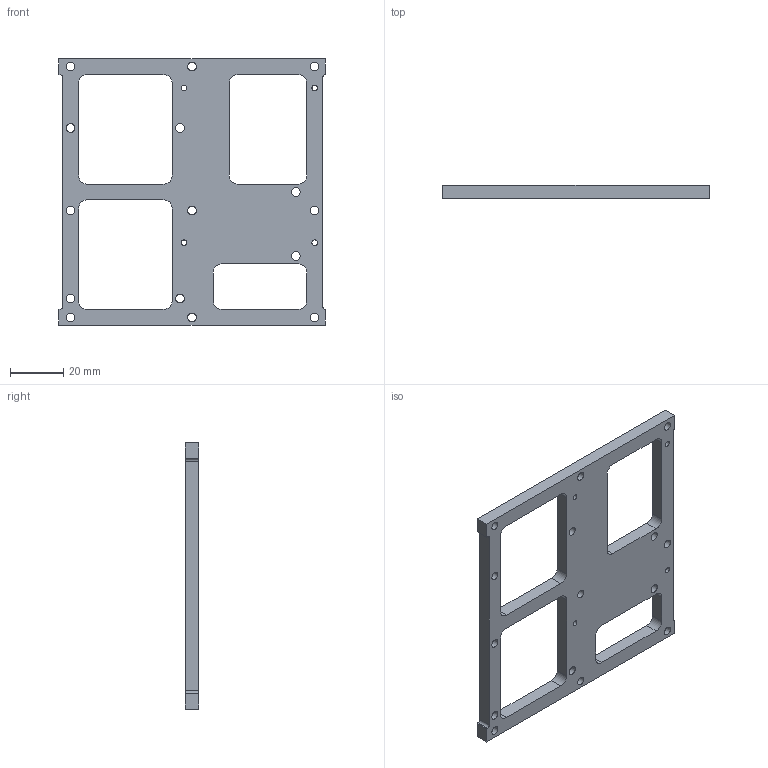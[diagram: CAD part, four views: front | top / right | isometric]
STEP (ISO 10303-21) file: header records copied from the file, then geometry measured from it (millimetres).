
FILE_DESCRIPTION(/* description */ ('','CAx-IF Rec.Pracs.---Representation and Presentation of Product Manufacturing Information (PMI)---4.0---2014-10-13'),/* implementation_level */ '2;1');
FILE_NAME(/* name */ 'a1_mini_control_brd_L2_v4_L3.step',/* time_stamp */ '2025-01-03T04:31:57+08:00',/* author */ (''),/* organization */ (''),/* preprocessor_version */ 'ST-DEVELOPER v20',/* originating_system */ 'Autodesk Translation Framework v13.20.0.188',/* authorisation */ '');
FILE_SCHEMA (('AP242_MANAGED_MODEL_BASED_3D_ENGINEERING_MIM_LF { 1 0 10303 442 1 1 4 }'));
Length unit declared in the file: millimetre
Products named in the file (1): a1_mini_control_brd_L2
Bounding box: 100 x 5 x 100 mm (x, y, z)
Volume: 25119.6 mm3; surface area: 15584 mm2
Topology: 1 solids, 1 shells, 67 faces, 195 edges, 130 vertices
Faces by surface type: cylinder 39, plane 28
Full cylindrical faces by diameter (mm): 2.05 x4, 3.2 x15
Entity records: 2372 total; most frequent: DIRECTION 409, CARTESIAN_POINT 393, ORIENTED_EDGE 390, EDGE_CURVE 195, AXIS2_PLACEMENT_3D 146, VERTEX_POINT 130, LINE 117, VECTOR 117
